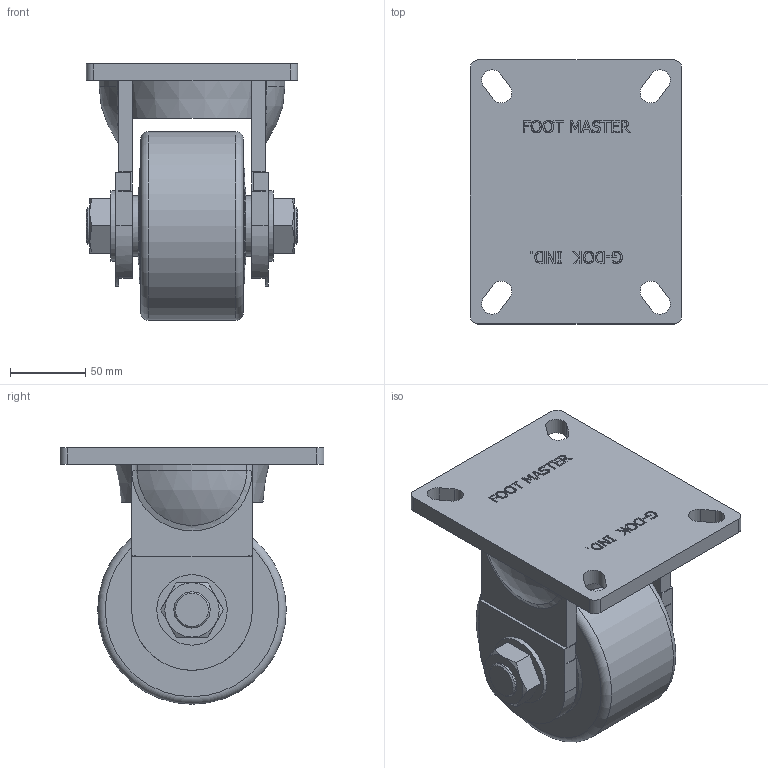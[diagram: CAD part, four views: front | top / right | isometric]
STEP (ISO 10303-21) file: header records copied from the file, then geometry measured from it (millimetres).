
FILE_DESCRIPTION((''),'2;1');
FILE_NAME('C:\Documents and Settings\Administrator\바탕 화면\3D STEP\GXT-SERIES\GXT-125\GXT-125-RF(MCD).stp','2010-12-27T14:41:21',('Administrator'),(''),'Autodesk Inventor 2009','Autodesk Inventor 2009','');
FILE_SCHEMA(('AUTOMOTIVE_DESIGN { 1 0 10303 214 1 1 1 1 }'));
Length unit declared in the file: millimetre
Products named in the file (1): GXT-125-RF(MCD)
Bounding box: 140 x 175 x 170 mm (x, y, z)
Volume: 1382028.7 mm3; surface area: 194190.1 mm2
Topology: 2 solids, 2 shells, 465 faces, 1201 edges, 792 vertices
Faces by surface type: plane 272, bspline 104, cylinder 66, cone 13, torus 6, sphere 4
Full cylindrical faces by diameter (mm): 22 x2, 24 x6, 24.3 x2, 24.5 x2, 25 x2, 26 x2, 30 x1, 35.667 x4, 40 x2, 41.333 x4, 45 x1, 46.7 x2, 78 x1, 125 x1
Entity records: 15885 total; most frequent: CARTESIAN_POINT 5332, ORIENTED_EDGE 2276, DIRECTION 1823, EDGE_CURVE 1138, VERTEX_POINT 781, VECTOR 757, LINE 757, EDGE_LOOP 585
